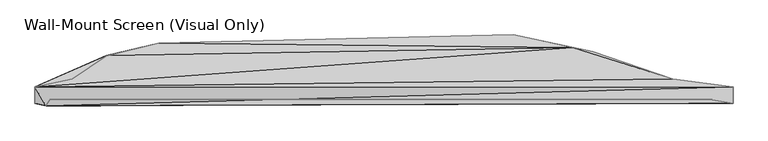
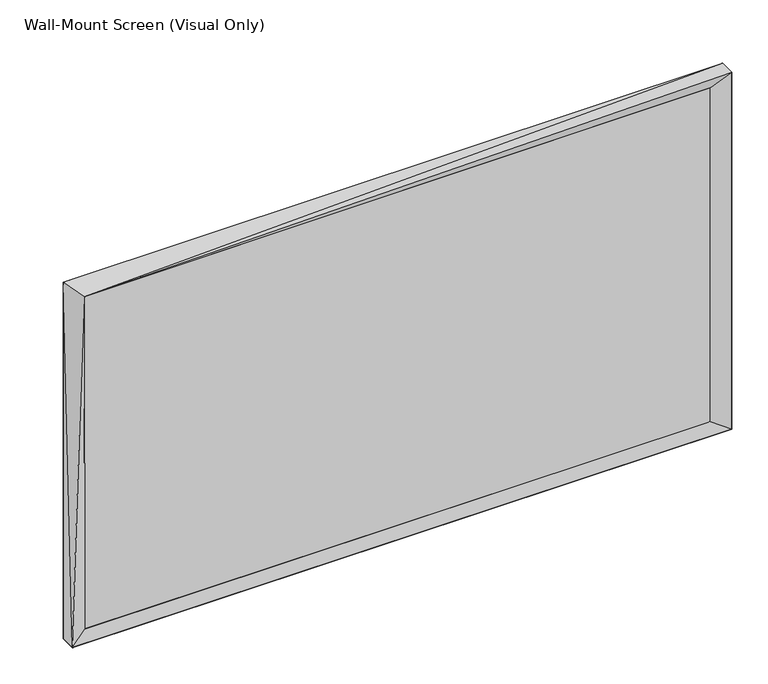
"""IFC4 building model written with IfcOpenShell, lengths in millimetres: furniture geometry, Wall-Mount Screen (Visual Only) : 1.242 m x 0.102 m."""

from ifc_helpers import new_model, si_unit, origin, place, context, project, spatial, triangles, source, transform, mapped, element, save


def wall_mount_screen_visual_only_2d66c662(model_context):
    return source(origin(), model_context, "Body", "Tessellation", [
        triangles([(584.2849754, -14.1748786, 279.1537638), (584.2853751, -14.1748899, 944.9175413), (-594.6308556, -14.1750875, 943.9256687), (-594.6308556, -14.1750761, 279.153673)], [[1, 2, 3], [3, 4, 1]], closed=False),
        triangles([(-400.3310512, 86.4603748, 347.0402633), (-400.3310148, 86.4603112, 726.8425529), (229.9079325, 101.425913, 720.1061182), (371.0338932, 71.4950092, 333.0765807), (-555.0400672, 22.4213535, 304.5386606), (-621.0300436, 8.5577688, 964.9378309), (-494.5070615, 64.0121084, 792.481061), (336.0585571, 78.9777374, 743.9466688), (513.2581698, 22.421508, 913.1107618), (-494.5070615, 64.0121311, 315.3575678), (513.2582788, 22.4215579, 304.5386606), (-601.4950441, -25.2259675, 949.3843472), (621.0300436, -20.6045404, 966.2649302), (621.0298983, 8.5579845, 966.2646395), (621.0300436, 8.5580089, 255.0649362), (621.0300436, -20.6045404, 255.0648999), (-621.0300436, -20.6047448, 255.0648999), (-621.0300436, 8.5577926, 255.0648999), (584.2849754, -14.9947186, 279.1536185), (-594.6308556, -14.994923, 279.153564), (584.2851571, -14.9947402, 944.917396), (-594.6308556, -14.9949343, 943.9255234)], [[1, 2, 3], [3, 4, 1], [5, 6, 7], [8, 7, 6], [4, 8, 9], [9, 8, 6], [7, 10, 5], [11, 5, 10], [10, 4, 11], [9, 11, 4], [12, 13, 14], [14, 13, 15], [15, 16, 17], [13, 16, 15], [17, 12, 6], [6, 12, 14], [15, 17, 18], [17, 6, 18], [19, 20, 17], [12, 17, 20], [4, 3, 8], [8, 3, 2], [12, 21, 13], [16, 13, 21], [5, 11, 15], [14, 15, 11], [7, 2, 10], [8, 2, 7], [1, 4, 10], [2, 1, 10], [17, 16, 19], [21, 19, 16], [6, 5, 18], [15, 18, 5], [20, 22, 12], [21, 12, 22], [9, 6, 14], [11, 9, 14]], closed=False),
    ])


if __name__ == "__main__":
    model = new_model("IFC4")
    model_context = context("Model", 3, world=origin())
    ifc_project = project(units=[si_unit("LENGTHUNIT", "METRE", prefix="MILLI")], contexts=[model_context])
    site = spatial("IfcSite", under=ifc_project)
    building = spatial("IfcBuilding", under=site)
    placement = place(None, origin())
    wall_mount_screen_visual_only_shape = wall_mount_screen_visual_only_2d66c662(model_context)
    element("IfcFurniture", 1, ObjectType="Wall-Mount Screen (Visual Only) : 1.242 m x 0.102 m", at=placement, inside=building, context=model_context, shape_type="MappedRepresentation", body=[
        mapped(wall_mount_screen_visual_only_shape, transform((0.0, 0.0, 0.0), x_axis=(1.0, 0.0, 0.0), y_axis=(0.0, 1.0, 0.0), z_axis=(0.0, 0.0, 1.0))),
    ])
    save(model, "model.ifc")
